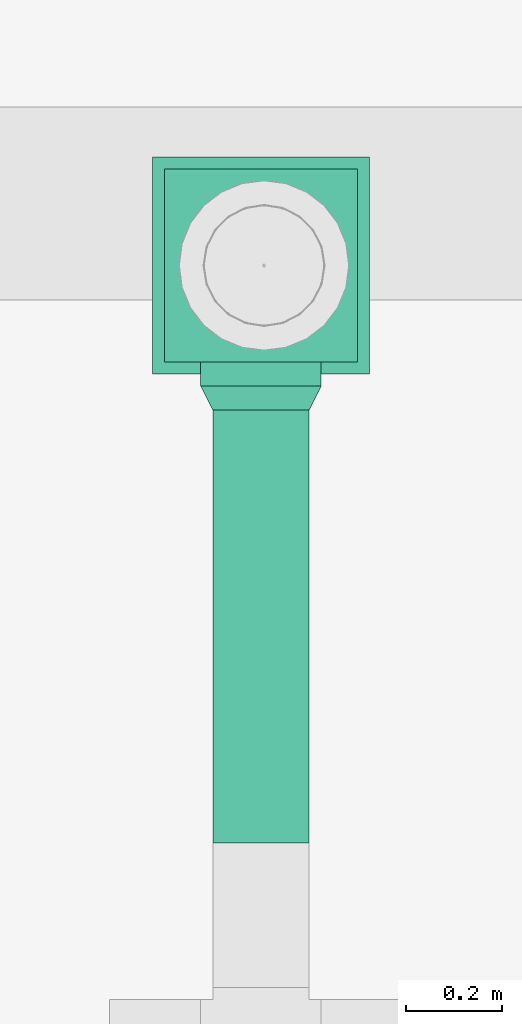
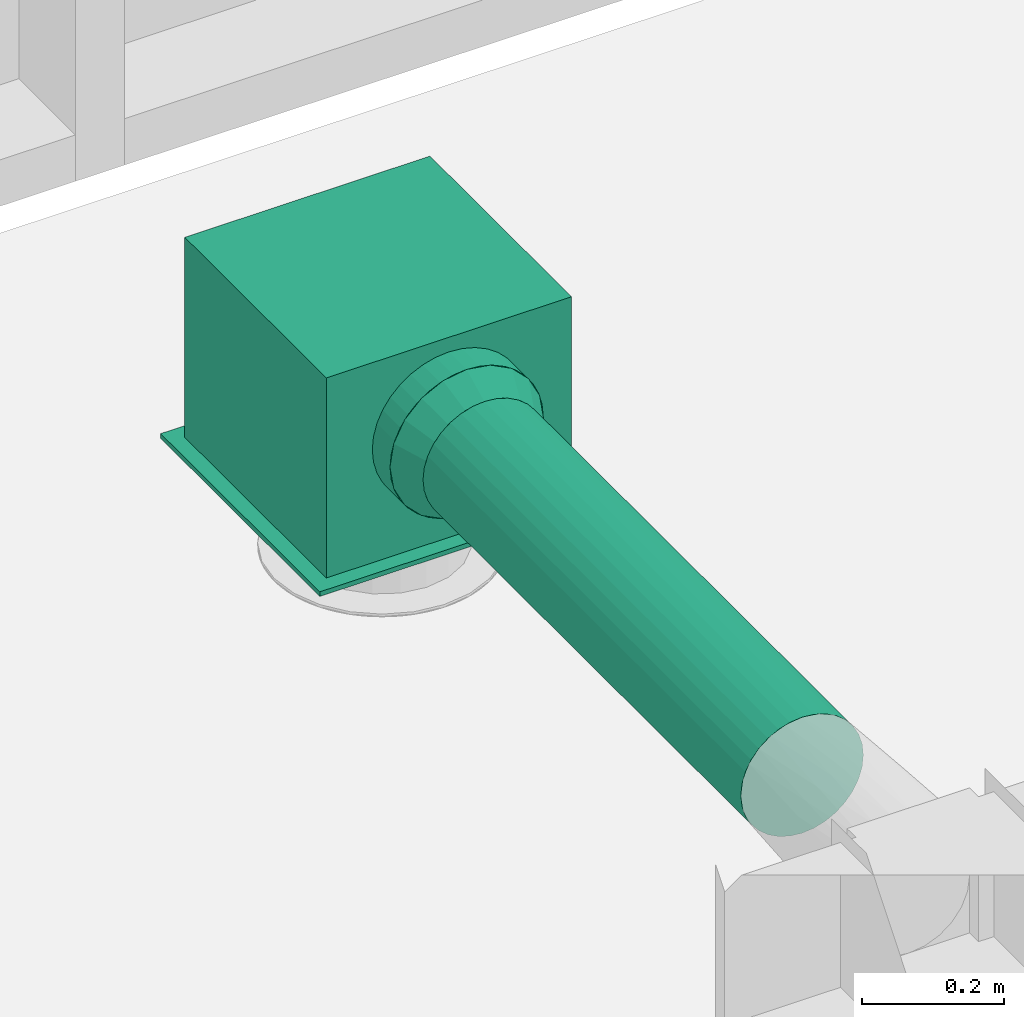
# One storey, part 269 of 302: 1 flow fitting, 1 flow segment, 1 flow terminal.
"""IFC2X3 building model written with IfcOpenShell, lengths in metres."""

import ifcopenshell
import ifcopenshell.guid

model = None  # the IFC model being written
_history = None  # IfcOwnerHistory: only IFC2X3 demands one
_inside = {}  # id of a spatial element -> (the spatial element, [elements in it])
_under = {}  # id of a project, library or spatial element -> (it, [spatial elements below it])
_declared = {}  # id of a project -> (the project, [libraries it declares])
_typed = {}  # id of a type object -> (the type object, [elements of that type])
_made_of = {}  # id of a material, layer set ... -> (it, [elements and type objects made of it])


def new_model(schema):
    """Start an empty IFC model of exactly this schema.

    Asked for "IFC4X3", IfcOpenShell would pick the latest addendum, in which some entities
    have other attributes; the version numbers below select the first issue.
    IFC2X3 requires an IfcOwnerHistory on every rooted entity: one is made here for all.
    """
    global model, _history
    if schema == "IFC4X3":
        model = ifcopenshell.file(schema_version=(4, 3, 0, 0))
    else:
        model = ifcopenshell.file(schema=schema)
    _inside.clear()
    _under.clear()
    _declared.clear()
    _typed.clear()
    _made_of.clear()
    _history = None
    if model.schema == "IFC2X3":
        org = make("IfcOrganization", Name="unknown")
        user = make(
            "IfcPersonAndOrganization",
            ThePerson=make("IfcPerson", FamilyName="unknown"),
            TheOrganization=org,
        )
        app = make(
            "IfcApplication",
            ApplicationDeveloper=org,
            Version="unknown",
            ApplicationFullName="unknown",
            ApplicationIdentifier="unknown",
        )
        _history = make(
            "IfcOwnerHistory",
            OwningUser=user,
            OwningApplication=app,
            ChangeAction="ADDED",
            CreationDate=0,
        )
    return model


def make(cls, **values):
    """One entity of the class cls with the attributes given. An attribute that is None is left unset."""
    return model.create_entity(
        cls, **{name: value for name, value in values.items() if value is not None}
    )


def entity(cls, *values):
    """Any entity or typed value of the class cls, its attributes in the order of the schema. None: left unset."""
    e = model.create_entity(cls)
    for i, value in enumerate(values):
        if value is not None:
            e[i] = value
    return e


def rooted(cls, **values):
    """An entity with a GlobalId (a new one), such as an element, a storey or a relation."""
    return make(cls, GlobalId=ifcopenshell.guid.new(), OwnerHistory=_history, **values)


def si_unit(unit_type, name, prefix=None):
    """IfcSIUnit, for example si_unit("LENGTHUNIT", "METRE", prefix="MILLI")."""
    return make("IfcSIUnit", UnitType=unit_type, Prefix=prefix, Name=name)


def converted_unit(unit_type, name, factor, base, dimensions=None, offset=None):
    """IfcConversionBasedUnit, such as the inch: factor (a typed value) times the base unit."""
    return make(
        "IfcConversionBasedUnit"
        if offset is None
        else "IfcConversionBasedUnitWithOffset",
        ConversionOffset=offset,
        Dimensions=None
        if dimensions is None
        else entity("IfcDimensionalExponents", *dimensions),
        UnitType=unit_type,
        Name=name,
        ConversionFactor=make(
            "IfcMeasureWithUnit", ValueComponent=factor, UnitComponent=base
        ),
    )


def derived_unit(unit_type, elements):
    """IfcDerivedUnit: a product of units, each with its exponent."""
    return make(
        "IfcDerivedUnit",
        Elements=[
            make("IfcDerivedUnitElement", Unit=unit, Exponent=power)
            for unit, power in elements
        ],
        UnitType=unit_type,
    )


def assignment(units):
    """IfcUnitAssignment: the units of a project."""
    return None if units is None else make("IfcUnitAssignment", Units=units)


def point(xyz):
    """IfcCartesianPoint."""
    return None if xyz is None else make("IfcCartesianPoint", Coordinates=xyz)


def direction(xyz):
    """IfcDirection."""
    return None if xyz is None else make("IfcDirection", DirectionRatios=xyz)


def frame(location, z_axis=None, x_axis=None):
    """IfcAxis2Placement3D, a coordinate frame: its origin and axes. An axis left out is left unset."""
    return make(
        "IfcAxis2Placement3D",
        Location=point(location),
        Axis=direction(z_axis),
        RefDirection=direction(x_axis),
    )


def frame_2d(location, x_axis=None):
    """IfcAxis2Placement2D, a coordinate frame in the plane: its origin and x axis."""
    return make(
        "IfcAxis2Placement2D", Location=point(location), RefDirection=direction(x_axis)
    )


def origin():
    """The frame at (0, 0, 0) with its axes left unset."""
    return frame((0.0, 0.0, 0.0))


def origin_2d_with_axis():
    """The frame at (0, 0) in the plane with the x axis (1, 0) written out."""
    return frame_2d((0.0, 0.0), x_axis=(1.0, 0.0))


def place(relative_to, where):
    """IfcLocalPlacement: puts the frame where relative to a parent placement (None: the world)."""
    return make(
        "IfcLocalPlacement", PlacementRelTo=relative_to, RelativePlacement=where
    )


def context(
    kind, dimensions, precision=None, world=None, true_north=None, identifier=None
):
    """IfcGeometricRepresentationContext, for example the 3D "Model" context."""
    return make(
        "IfcGeometricRepresentationContext",
        ContextIdentifier=identifier,
        ContextType=kind,
        CoordinateSpaceDimension=dimensions,
        Precision=precision,
        WorldCoordinateSystem=world,
        TrueNorth=true_north,
    )


def subcontext(parent, identifier, kind, view, scale=None):
    """IfcGeometricRepresentationSubContext, for example "Body" below "Model"."""
    return make(
        "IfcGeometricRepresentationSubContext",
        ContextIdentifier=identifier,
        ContextType=kind,
        ParentContext=parent,
        TargetScale=scale,
        TargetView=view,
    )


def project(units=None, contexts=None):
    """IfcProject with its units and contexts."""
    return rooted(
        "IfcProject",
        Name="project",
        RepresentationContexts=contexts,
        UnitsInContext=assignment(units),
    )


def spatial(cls, under=None, at=None, **own):
    """A site, building, storey or space (cls), placed at a placement, below another one or the project."""
    s = rooted(cls, ObjectPlacement=at, **own)
    if under is not None:
        _under.setdefault(under.id(), (under, []))[1].append(s)
    return s


def profile(cls, at=None, kind="AREA", **sizes):
    """A parametric profile (cls). Its sizes go by their IFC names, for example OverallWidth=200.0."""
    return make(cls, ProfileType=kind, Position=at, **sizes)


def rectangle(**sizes):
    """IfcRectangleProfileDef."""
    return profile("IfcRectangleProfileDef", **sizes)


def circle(**sizes):
    """IfcCircleProfileDef."""
    return profile("IfcCircleProfileDef", **sizes)


def extrude(swept, where, along, depth):
    """IfcExtrudedAreaSolid: the profile swept, set in the frame where, extruded along a direction by depth."""
    return make(
        "IfcExtrudedAreaSolid",
        SweptArea=swept,
        Position=where,
        ExtrudedDirection=direction(along),
        Depth=depth,
    )


def faces_of(points, faces, orient=None, outer=None):
    """IfcFace entities. A face is a list of loops; a loop is a list of indices into points, from 0.

    orient and outer hold one flag for each loop. By default every Orientation is true, the
    first loop of a face is its IfcFaceOuterBound and the others are IfcFaceBound.
    """
    made = []
    for i, loops in enumerate(faces):
        bounds = []
        for j, loop in enumerate(loops):
            is_outer = j == 0 if outer is None else outer[i][j]
            bounds.append(
                make(
                    "IfcFaceOuterBound" if is_outer else "IfcFaceBound",
                    Bound=make("IfcPolyLoop", Polygon=[points[k] for k in loop]),
                    Orientation=True if orient is None else orient[i][j],
                )
            )
        made.append(make("IfcFace", Bounds=bounds))
    return made


def faceted_brep(points, faces, orient=None, outer=None, voids=None):
    """IfcFacetedBrep: a solid bounded by flat faces; with voids (closed shells), ...WithVoids."""
    shared = [point(p) for p in points]
    hull = make("IfcClosedShell", CfsFaces=faces_of(shared, faces, orient, outer))
    if voids is None:
        return make("IfcFacetedBrep", Outer=hull)
    return make(
        "IfcFacetedBrepWithVoids",
        Outer=hull,
        Voids=[
            make(cls, CfsFaces=faces_of(shared, fs, o, b)) for cls, fs, o, b in voids
        ],
    )


def shape(context_of_items, identifier, shape_type, items):
    """IfcShapeRepresentation: the items that make up one representation, for example the "Body"."""
    return make(
        "IfcShapeRepresentation",
        ContextOfItems=context_of_items,
        RepresentationIdentifier=identifier,
        RepresentationType=shape_type,
        Items=items,
    )


def source(mapping_origin, context_of_items, identifier, shape_type, items):
    """IfcRepresentationMap: a shape defined once, which mapped items show again and again."""
    return make(
        "IfcRepresentationMap",
        MappingOrigin=mapping_origin,
        MappedRepresentation=shape(context_of_items, identifier, shape_type, items),
    )


def transform(
    local_origin,
    x_axis=None,
    y_axis=None,
    z_axis=None,
    scale=None,
    scale2=None,
    scale3=None,
    uniform=True,
):
    """IfcCartesianTransformationOperator3D, or its non-uniform kind. x_axis, y_axis, z_axis: its Axis1, 2, 3."""
    if uniform:
        return make(
            "IfcCartesianTransformationOperator3D",
            Axis1=direction(x_axis),
            Axis2=direction(y_axis),
            LocalOrigin=point(local_origin),
            Scale=scale,
            Axis3=direction(z_axis),
        )
    return make(
        "IfcCartesianTransformationOperator3DnonUniform",
        Axis1=direction(x_axis),
        Axis2=direction(y_axis),
        LocalOrigin=point(local_origin),
        Scale=scale,
        Axis3=direction(z_axis),
        Scale2=scale2,
        Scale3=scale3,
    )


def mapped(mapping_source, mapping_target):
    """IfcMappedItem: shows the shape of a source again, moved by a transform."""
    return make(
        "IfcMappedItem", MappingSource=mapping_source, MappingTarget=mapping_target
    )


def material(Name=None, Category=None):
    """IfcMaterial."""
    return make("IfcMaterial", Name=Name, Category=Category)


def material_list(materials):
    """IfcMaterialList."""
    return make("IfcMaterialList", Materials=materials)


def made_of(thing, what):
    """Note that an element or type object is made of a material, layer set ...; save() writes the relation."""
    if what is not None:
        _made_of.setdefault(what.id(), (what, []))[1].append(thing)
    return thing


def type_object(cls, material=None, **own):
    """A type object (cls), such as IfcWallType, which elements share."""
    return made_of(rooted(cls, **own), material)


def type_shapes(of_type, sources):
    """Give a type object the sources (RepresentationMaps) that its elements show as mapped items."""
    of_type.RepresentationMaps = sources


def element(
    cls,
    number,
    at=None,
    inside=None,
    cuts=None,
    type_object=None,
    material=None,
    context=None,
    identifier="Body",
    shape_type=None,
    held_by="IfcProductDefinitionShape",
    body=None,
    shapes=None,
    **own,
):
    """One element of the class cls, such as IfcWall. Its Tag is "e" and its number.

    at: its placement. inside: the storey or other place that contains it. cuts: it is an
    opening in that element (IfcRelVoidsElement). A single representation is given by context,
    identifier, shape_type and body (its items); several are given by shapes. held_by: the class
    of the entity that holds the representations. save() writes the other relations.
    """
    e = rooted(cls, Tag="e%d" % number, ObjectPlacement=at, **own)
    if body is not None:
        shapes = [shape(context, identifier, shape_type, body)]
    if shapes is not None:
        e.Representation = make(held_by, Representations=shapes)
    if inside is not None:
        _inside.setdefault(inside.id(), (inside, []))[1].append(e)
    if cuts is not None:
        rooted(
            "IfcRelVoidsElement", RelatingBuildingElement=cuts, RelatedOpeningElement=e
        )
    if type_object is not None:
        _typed.setdefault(type_object.id(), (type_object, []))[1].append(e)
    return made_of(e, material)


def aggregate(whole, parts):
    """IfcRelAggregates: a whole, such as a stair, and the parts it consists of."""
    return rooted("IfcRelAggregates", RelatingObject=whole, RelatedObjects=parts)


def save(model, path):
    """Write the relations noted so far, then the file.

    IfcRelAggregates (storeys below a building ...), IfcRelContainedInSpatialStructure (elements
    in a storey), IfcRelDefinesByType, IfcRelAssociatesMaterial and IfcRelDeclares: one each for
    every whole, place, type object, material and project.
    """
    for whole, parts in _under.values():
        aggregate(whole, parts)
    for where, things in _inside.values():
        rooted(
            "IfcRelContainedInSpatialStructure",
            RelatedElements=things,
            RelatingStructure=where,
        )
    for kind, things in _typed.values():
        rooted("IfcRelDefinesByType", RelatedObjects=things, RelatingType=kind)
    for what, things in _made_of.values():
        rooted("IfcRelAssociatesMaterial", RelatedObjects=things, RelatingMaterial=what)
    for by, libraries in _declared.values():
        rooted("IfcRelDeclares", RelatingContext=by, RelatedDefinitions=libraries)
    model.write(path)


model = new_model("IFC2X3")

# Units and contexts
model_context = context("Model", 3, precision=1e-05, world=origin(), true_north=direction((6.12303176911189e-17, 1.0)))
body_context = subcontext(model_context, "Body", "Model", "MODEL_VIEW")
ifc_project = project(units=[si_unit("LENGTHUNIT", "METRE"), si_unit("AREAUNIT", "SQUARE_METRE"), si_unit("VOLUMEUNIT", "CUBIC_METRE"), converted_unit("PLANEANGLEUNIT", "DEGREE", entity("IfcRatioMeasure", 0.0174532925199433), si_unit("PLANEANGLEUNIT", "RADIAN"), dimensions=[0, 0, 0, 0, 0, 0, 0]), si_unit("MASSUNIT", "GRAM", prefix="KILO"), derived_unit("MASSDENSITYUNIT", [(si_unit("MASSUNIT", "GRAM", prefix="KILO"), 1), (si_unit("LENGTHUNIT", "METRE"), -3)]), derived_unit("MOMENTOFINERTIAUNIT", [(si_unit("LENGTHUNIT", "METRE"), 4)]), si_unit("TIMEUNIT", "SECOND"), si_unit("FREQUENCYUNIT", "HERTZ"), si_unit("THERMODYNAMICTEMPERATUREUNIT", "DEGREE_CELSIUS"), derived_unit("THERMALTRANSMITTANCEUNIT", [(si_unit("MASSUNIT", "GRAM", prefix="KILO"), 1), (si_unit("THERMODYNAMICTEMPERATUREUNIT", "KELVIN"), -1), (si_unit("TIMEUNIT", "SECOND"), -3)]), derived_unit("VOLUMETRICFLOWRATEUNIT", [(si_unit("LENGTHUNIT", "METRE"), 3), (si_unit("TIMEUNIT", "SECOND"), -1)]), si_unit("ELECTRICCURRENTUNIT", "AMPERE"), si_unit("ELECTRICVOLTAGEUNIT", "VOLT"), si_unit("POWERUNIT", "WATT"), si_unit("FORCEUNIT", "NEWTON", prefix="KILO"), si_unit("ILLUMINANCEUNIT", "LUX"), si_unit("LUMINOUSFLUXUNIT", "LUMEN"), si_unit("LUMINOUSINTENSITYUNIT", "CANDELA"), derived_unit("USERDEFINED", [(si_unit("MASSUNIT", "GRAM", prefix="KILO"), -1), (si_unit("LENGTHUNIT", "METRE"), -2), (si_unit("TIMEUNIT", "SECOND"), 3), (si_unit("LUMINOUSFLUXUNIT", "LUMEN"), 1)]), derived_unit("LINEARVELOCITYUNIT", [(si_unit("LENGTHUNIT", "METRE"), 1), (si_unit("TIMEUNIT", "SECOND"), -1)]), si_unit("PRESSUREUNIT", "PASCAL"), derived_unit("USERDEFINED", [(si_unit("LENGTHUNIT", "METRE"), -2), (si_unit("MASSUNIT", "GRAM", prefix="KILO"), 1), (si_unit("TIMEUNIT", "SECOND"), -2)]), derived_unit("LINEARFORCEUNIT", [(si_unit("MASSUNIT", "GRAM", prefix="KILO"), 1), (si_unit("LENGTHUNIT", "METRE"), 1), (si_unit("TIMEUNIT", "SECOND"), -2), (si_unit("LENGTHUNIT", "METRE"), -1)]), derived_unit("PLANARFORCEUNIT", [(si_unit("MASSUNIT", "GRAM", prefix="KILO"), 1), (si_unit("LENGTHUNIT", "METRE"), 1), (si_unit("TIMEUNIT", "SECOND"), -2), (si_unit("LENGTHUNIT", "METRE"), -2)])], contexts=[model_context])

# Site, building, storey
site_placement = place(None, origin())
site = spatial("IfcSite", under=ifc_project, at=site_placement, Name="Default", CompositionType="ELEMENT")
building_placement = place(site_placement, origin())
building = spatial("IfcBuilding", under=site, at=building_placement, CompositionType="ELEMENT")
storey_placement = place(building_placement, frame((0.0, 0.0, -1.3)))
storey = spatial("IfcBuildingStorey", under=building, at=storey_placement, Name="00_EG", CompositionType="ELEMENT", Elevation=-1.3)

# Flow segment
duct_segment_type = type_object("IfcDuctSegmentType", Name="Rund:STR_Segment_RND_GS_EA", PredefinedType="NOTDEFINED")
flow_segment_placement = place(storey_placement, origin())
element("IfcFlowSegment", 1, at=flow_segment_placement, inside=storey, type_object=duct_segment_type, Name="Rund:STR_Segment_RND_GS_EA", ObjectType="Rund:STR_Segment_RND_GS_EA", context=body_context, shape_type="SweptSolid", body=[
    extrude(circle(Radius=0.1, at=origin_2d_with_axis()), frame((-263.476224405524, 39.3332258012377, 4.91), z_axis=(0.0, 1.0, 0.0), x_axis=(1.0, 0.0, 0.0)), (0.0, 0.0, 1.0), 0.897893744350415),
])

# Flow terminal
ifc_material = material(Name="<Unnamed>")
ifc_material_list_1 = material_list([ifc_material, ifc_material, ifc_material])
ifc_material_list_2 = material_list([ifc_material, ifc_material, ifc_material])
air_terminal_type = type_object("IfcAirTerminalType", Name="Drallauslass Zuluft seitlich:600 quadratisch", PredefinedType="NOTDEFINED", material=ifc_material_list_2)
shared_shape_1 = source(origin(), body_context, "Body", "SweptSolid", [
    extrude(rectangle(XDim=0.449999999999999, YDim=0.450000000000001, at=origin_2d_with_axis()), frame((0.0, 0.0, 2.692), z_axis=(0.0, 0.0, 1.0), x_axis=(-1.0, 0.0, 0.0)), (0.0, 0.0, 1.0), 0.00800000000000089),
    extrude(circle(Radius=0.125, at=frame_2d((1.22275294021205e-18, 0.0), x_axis=(1.0, 0.0))), frame((-0.25, 0.0, 2.89500000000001), z_axis=(1.0, 0.0, 0.0), x_axis=(0.0, 1.0, 0.0)), (0.0, 0.0, 1.0), 0.0499999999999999),
    extrude(rectangle(XDim=0.399999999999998, YDim=0.4, at=origin_2d_with_axis()), frame((0.0, 0.0, 2.7), z_axis=(0.0, 0.0, 1.0), x_axis=(-1.0, 0.0, 0.0)), (0.0, 0.0, 1.0), 0.345000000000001),
])
type_shapes(air_terminal_type, [shared_shape_1])
flow_terminal_placement = place(storey_placement, frame((-263.476224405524, 40.5311195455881, 2.01499999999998), z_axis=(0.0, 0.0, 1.0), x_axis=(0.0, 1.0, 0.0)))
element("IfcFlowTerminal", 2, at=flow_terminal_placement, inside=storey, type_object=air_terminal_type, material=ifc_material_list_1, Name="Drallauslass Zuluft seitlich:600 quadratisch", ObjectType="Drallauslass Zuluft seitlich:600 quadratisch", context=body_context, shape_type="MappedRepresentation", body=[
    mapped(shared_shape_1, transform((0.0, 0.0, 0.0), scale=1.0)),
])

# Flow fitting
duct_fitting_type = type_object("IfcDuctFittingType", Name="STR_RND_Transition:STR_Transition_RND_GS_EA", PredefinedType="NOTDEFINED", material=ifc_material)
shared_shape_2 = source(origin(), body_context, "Body", "Brep", [
    faceted_brep([(0.0500000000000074, -0.073473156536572, -0.1011271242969), (0.0500000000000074, -0.0386271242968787, -0.118882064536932), (0.0500000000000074, 0.0, -0.12500000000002), (0.0500000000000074, 0.0386271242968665, -0.11888206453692), (0.0500000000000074, 0.073473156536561, -0.101127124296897), (0.0500000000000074, 0.101127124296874, -0.0734731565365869), (0.0500000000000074, 0.1188820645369, -0.038627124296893), (0.0500000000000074, 0.124999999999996, 0.0), (0.0500000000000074, 0.118882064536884, 0.0386271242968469), (0.0500000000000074, 0.101127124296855, 0.073473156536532), (0.0500000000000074, 0.0734731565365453, 0.101127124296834), (0.0500000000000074, 0.0386271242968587, 0.118882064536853), (0.0500000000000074, 0.0, 0.12499999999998), (0.0500000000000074, -0.0386271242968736, 0.118882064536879), (0.0500000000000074, -0.0734731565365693, 0.101127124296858), (0.0500000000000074, -0.101127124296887, 0.0734731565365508), (0.0500000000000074, -0.118882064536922, 0.0386271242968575), (0.0500000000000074, -0.125000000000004, 0.0), (0.0500000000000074, -0.118882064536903, -0.0386271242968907), (0.0500000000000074, -0.101127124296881, -0.0734731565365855), (0.0, 0.0309016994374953, -0.0951056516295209), (0.0, 0.0, -0.100000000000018), (0.0, -0.0309016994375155, -0.0951056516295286), (0.0, -0.0587785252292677, -0.0809016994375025), (0.0, -0.0809016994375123, -0.0587785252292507), (0.0, -0.0951056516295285, -0.0309016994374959), (0.0, -0.100000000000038, 0.0), (0.0, -0.0951056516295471, 0.0309016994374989), (0.0, -0.0809016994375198, 0.0587785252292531), (0.0, -0.058778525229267, 0.0809016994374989), (0.0, -0.0309016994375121, 0.0951056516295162), (0.0, 0.0, 0.0999999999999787), (0.0, 0.0309016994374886, 0.0951056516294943), (0.0, 0.0587785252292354, 0.0809016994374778), (0.0, 0.0809016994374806, 0.0587785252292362), (0.0, 0.0951056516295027, 0.0309016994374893), (0.0, 0.0999999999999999, 0.0), (0.0, 0.0951056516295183, -0.0309016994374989), (0.0, 0.0809016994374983, -0.0587785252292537), (0.0, 0.0587785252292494, -0.0809016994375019)], [[[0, 1, 2, 3, 4, 5, 6, 7, 8, 9, 10, 11, 12, 13, 14, 15, 16, 17, 18, 19]], [[20, 21, 22, 23, 24, 25, 26, 27, 28, 29, 30, 31, 32, 33, 34, 35, 36, 37, 38, 39]], [[35, 34, 9, 8]], [[36, 35, 8, 7]], [[34, 33, 10, 9]], [[10, 33, 32, 11]], [[11, 32, 31, 12]], [[30, 29, 14, 13]], [[31, 30, 13, 12]], [[29, 28, 15, 14]], [[15, 28, 27, 16]], [[16, 27, 26, 17]], [[25, 24, 19, 18]], [[26, 25, 18, 17]], [[24, 23, 0, 19]], [[0, 23, 22, 1]], [[1, 22, 21, 2]], [[20, 39, 4, 3]], [[21, 20, 3, 2]], [[39, 38, 5, 4]], [[5, 38, 37, 6]], [[6, 37, 36, 7]]]),
])
type_shapes(duct_fitting_type, [shared_shape_2])
flow_fitting_placement = place(storey_placement, frame((-263.476224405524, 40.2311195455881, 4.90999999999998), z_axis=(0.0, 0.0, 1.0), x_axis=(0.0, 1.0, 0.0)))
element("IfcFlowFitting", 3, at=flow_fitting_placement, inside=storey, type_object=duct_fitting_type, material=ifc_material, Name="STR_RND_Transition:STR_Transition_RND_GS_EA", ObjectType="STR_RND_Transition:STR_Transition_RND_GS_EA", context=body_context, shape_type="MappedRepresentation", body=[
    mapped(shared_shape_2, transform((0.0, 0.0, 0.0), scale=1.0)),
])

save(model, "model.ifc")
